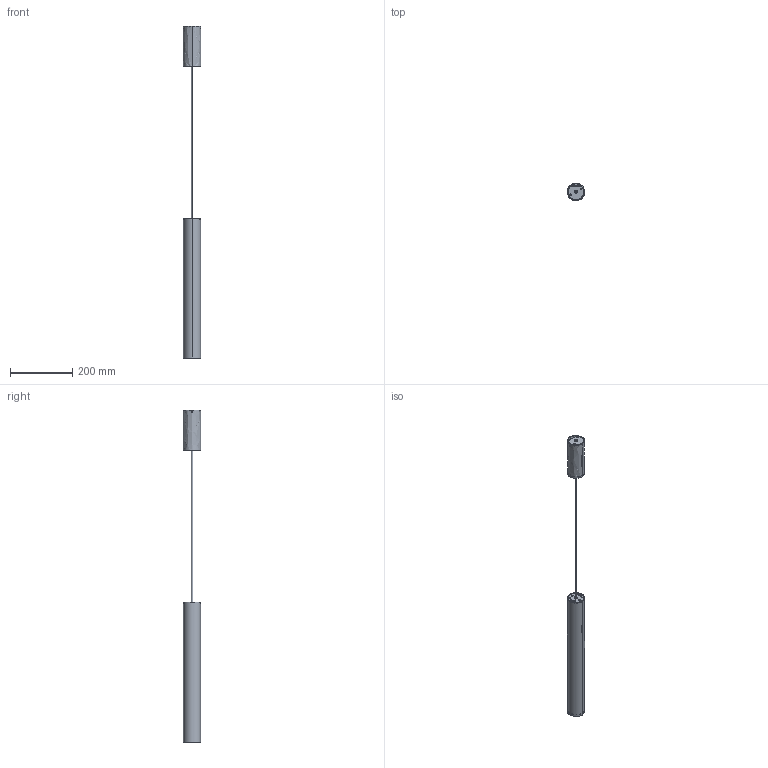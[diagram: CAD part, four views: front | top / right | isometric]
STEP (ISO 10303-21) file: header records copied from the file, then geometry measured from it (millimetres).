
FILE_DESCRIPTION(/* description */ (''),/* implementation_level */ '2;1');
FILE_NAME(/* name */ 'To-be L027__.045',/* time_stamp */ '2025-05-27T17:08:05+02:00',/* author */ (''),/* organization */ (''),/* preprocessor_version */ 'ST-DEVELOPER v16.5',/* originating_system */ '',/* authorisation */ '');
FILE_SCHEMA (('AUTOMOTIVE_DESIGN'));
Length unit declared in the file: millimetre
Products named in the file (10): Document; 3300.0019000.00 (tubo ALL D 55mm sp 2)_3302.0019045.00; 5205.0001010.00 (raccordo fresato OTTONE D 12mm sp 3 gambo H 10mm M10
x1 Sacla 13501)_5205.0001010.00; 4504.0004000.00 (passacavo D int. 5,9mm L 10,5mm Steab 5101)_4504.000
4000.00; 3200.0075000.00 (staffa rosone ACC D 50,7mm H 126,2mm sp 1,2)_3210.00
75000.00 in opera 2; 3200.0020000.00 (staffa rosone ACC 50x44x125mm sp 1,2)_3209.0020000.0
0 in opera 1; 3200.0021000.00 (testata rosone ACC D 50,7mm sp 1,2)_3201.0021000.00; 3300.0250000.00 (tubo rosone ALL D 55mm sp 2)_3306.0250013.00; 3400.0080000.00 (cavo FEP+PVC 2x0,75 trasparente)_3401.0080500.00; 3200.0023000.00 (testata-controtestata ACC D 50,8mm sp 2)_3205.002300
1.00
Assembly tree (9 placements, depth 3):
  Document
    3300.0019000.00 (tubo ALL D 55mm sp 2)_3302.0019045.00
    5205.0001010.00 (raccordo fresato OTTONE D 12mm sp 3 gambo H 10mm M10
x1 Sacla 13501)_5205.0001010.00
    4504.0004000.00 (passacavo D int. 5,9mm L 10,5mm Steab 5101)_4504.000
4000.00
    3200.0075000.00 (staffa rosone ACC D 50,7mm H 126,2mm sp 1,2)_3210.00
75000.00 in opera 2
      3200.0020000.00 (staffa rosone ACC 50x44x125mm sp 1,2)_3209.0020000.0
0 in opera 1
      3200.0021000.00 (testata rosone ACC D 50,7mm sp 1,2)_3201.0021000.00
    3300.0250000.00 (tubo rosone ALL D 55mm sp 2)_3306.0250013.00
    3400.0080000.00 (cavo FEP+PVC 2x0,75 trasparente)_3401.0080500.00
    3200.0023000.00 (testata-controtestata ACC D 50,8mm sp 2)_3205.002300
1.00
Bounding box: 55 x 55 x 1070.9 mm (x, y, z)
Volume: 228239.4 mm3; surface area: 244288 mm2
Topology: 11 solids, 11 shells, 406 faces, 1032 edges, 650 vertices
Faces by surface type: bspline 272, plane 134
Entity records: 38140 total; most frequent: CARTESIAN_POINT 31774, ORIENTED_EDGE 2064, EDGE_CURVE 1032, VERTEX_POINT 650, B_SPLINE_CURVE_WITH_KNOTS 563, EDGE_LOOP 460, ADVANCED_FACE 406, FACE_OUTER_BOUND 406
